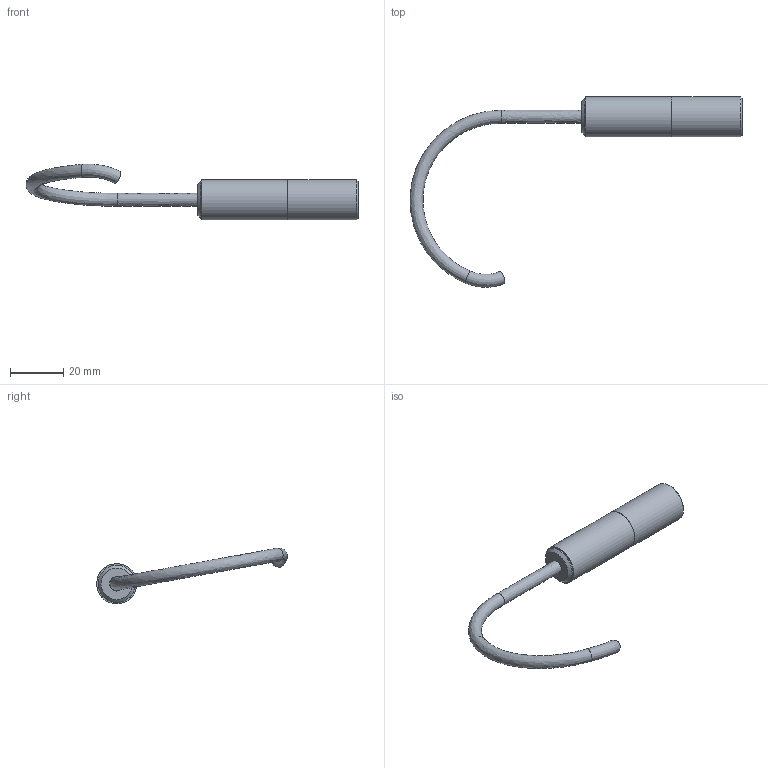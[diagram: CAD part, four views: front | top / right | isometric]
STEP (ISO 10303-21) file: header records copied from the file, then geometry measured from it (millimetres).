
FILE_DESCRIPTION (( 'STEP AP203' ), '1' );
FILE_NAME ('UV_LED_SpotP_short.STEP', '2022-04-27T07:23:58', ( '' ), ( '' ), 'SwSTEP 2.0', 'SolidWorks 2021', '' );
FILE_SCHEMA (( 'CONFIG_CONTROL_DESIGN' ));
Length unit declared in the file: millimetre
Products named in the file (7): 2020PCX 32011; UV_LED_Optik_Huellrohr_v2; UV_LED_Punktlichtquelle_Optik_v2; UV_LED_Punktlichtquelle_Abdeckung_Stiftende_v2_spot P; UV_LED_SpotP_short; UV_LED_SpotP_kurz_v2; Kabel_Dummy
Assembly tree (6 placements, depth 3):
  UV_LED_SpotP_short
    UV_LED_SpotP_kurz_v2
    UV_LED_Punktlichtquelle_Optik_v2
      UV_LED_Optik_Huellrohr_v2
      2020PCX 32011
    UV_LED_Punktlichtquelle_Abdeckung_Stiftende_v2_spot P
    Kabel_Dummy
Bounding box: 124.22 x 71.31 x 20.83 mm (x, y, z)
Volume: 8635.3 mm3; surface area: 9242.6 mm2
Topology: 5 solids, 5 shells, 56 faces, 124 edges, 82 vertices
Faces by surface type: cylinder 22, plane 18, cone 12, bspline 4
Full cylindrical faces by diameter (mm): 1 x1, 1.5 x6, 4 x1, 5.4 x1, 11 x1, 11.4 x1, 11.9 x1, 12 x1, 12.1 x1, 12.8 x1, 13 x1, 13.2 x1, 13.46 x1, 14 x2, 15 x2
Entity records: 3134 total; most frequent: CARTESIAN_POINT 1303, DIRECTION 250, ORIENTED_EDGE 164, AXIS2_PLACEMENT_3D 119, EDGE_LOOP 106, EDGE_CURVE 82, FACE_OUTER_BOUND 81, VERTEX_POINT 70
